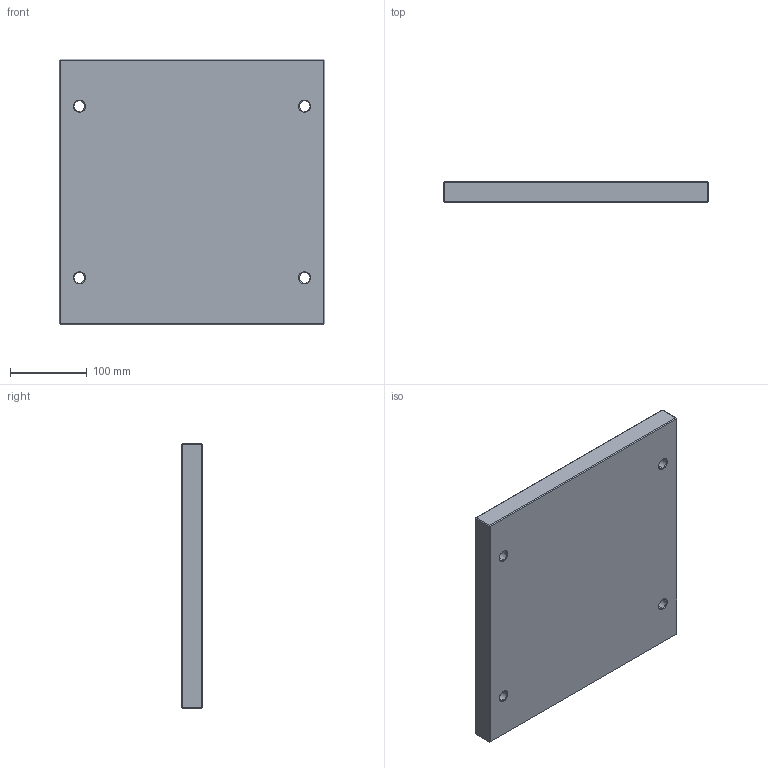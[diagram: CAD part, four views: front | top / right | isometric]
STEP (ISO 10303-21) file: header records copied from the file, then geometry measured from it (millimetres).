
FILE_DESCRIPTION (( 'STEP AP214' ), '1' );
FILE_NAME ('PBAS-346x346x27.STEP', '2020-03-24T15:39:52', ( 'August' ), ( '' ), 'SwSTEP 2.0', 'SolidWorks 2018', '' );
FILE_SCHEMA (( 'AUTOMOTIVE_DESIGN' ));
Length unit declared in the file: millimetre
Products named in the file (1): PBAS-346x346x27
Bounding box: 346 x 27 x 346 mm (x, y, z)
Volume: 3205079.6 mm3; surface area: 279446.6 mm2
Topology: 1 solids, 1 shells, 62 faces, 128 edges, 72 vertices
Faces by surface type: plane 30, cone 16, cylinder 16
Entity records: 1650 total; most frequent: DIRECTION 302, CARTESIAN_POINT 263, ORIENTED_EDGE 256, EDGE_CURVE 128, AXIS2_PLACEMENT_3D 111, VECTOR 80, LINE 80, EDGE_LOOP 74
